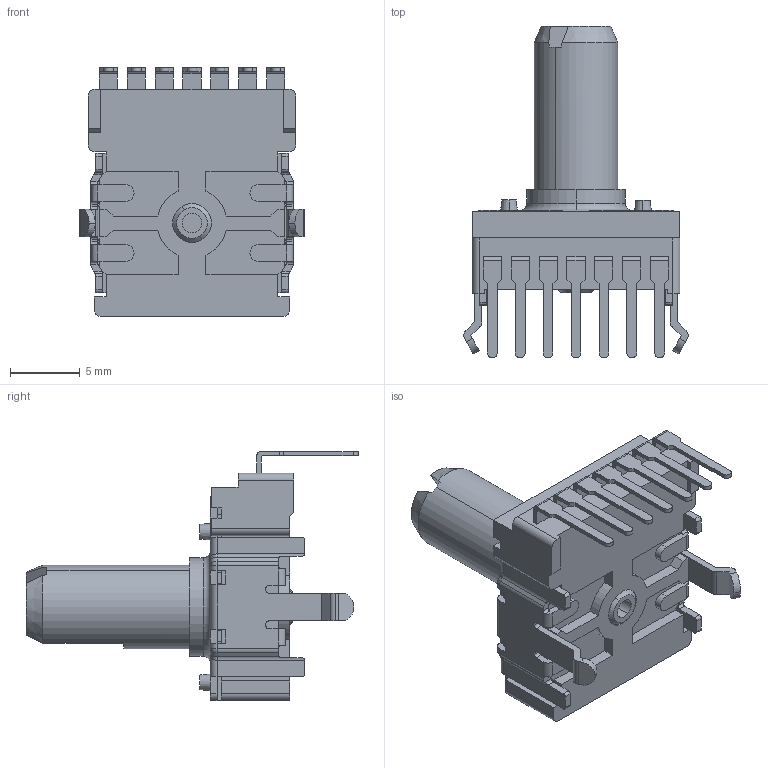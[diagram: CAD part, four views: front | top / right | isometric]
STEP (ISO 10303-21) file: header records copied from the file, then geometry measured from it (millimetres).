
FILE_DESCRIPTION (( 'STEP AP203' ), '1' );
FILE_NAME ('P140KH-F20.STEP', '2026-09-15T19:11:18', ( '' ), ( '' ), 'SwSTEP 2.0', 'SolidWorks 2026', '' );
FILE_SCHEMA (( 'CONFIG_CONTROL_DESIGN' ));
Length unit declared in the file: millimetre
Products named in the file (7): Housing; P140KH-F20; V-terminal; spring_plate; KH bracket; F20; KH-housing
Assembly tree (12 placements, depth 3):
  P140KH-F20
    KH-housing
      Housing
      V-terminal  x7
    F20
    spring_plate
    KH bracket
Bounding box: 16.1 x 23.8 x 17.85 mm (x, y, z)
Volume: 1310.3 mm3; surface area: 2643.1 mm2
Topology: 11 solids, 11 shells, 595 faces, 1632 edges, 1052 vertices
Faces by surface type: plane 376, cylinder 189, bspline 12, cone 8, torus 6, sphere 4
Entity records: 17299 total; most frequent: CARTESIAN_POINT 3227, ORIENTED_EDGE 2816, DIRECTION 2696, EDGE_CURVE 1408, LINE 998, VECTOR 998, VERTEX_POINT 908, AXIS2_PLACEMENT_3D 849
